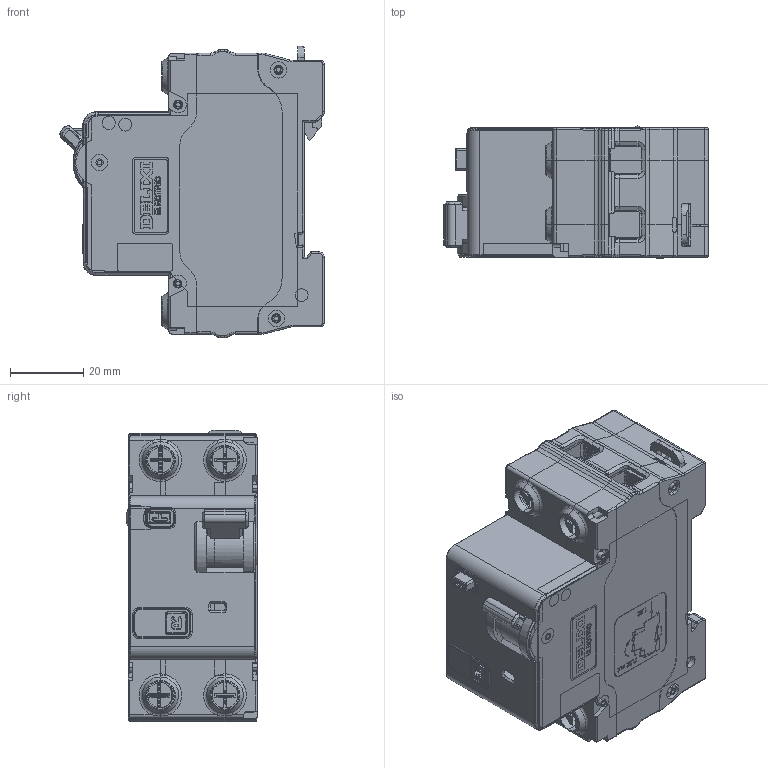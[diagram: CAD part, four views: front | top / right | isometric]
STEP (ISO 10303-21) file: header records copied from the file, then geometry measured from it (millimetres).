
FILE_DESCRIPTION((''),'2;1');
FILE_NAME('2290007500_SW0002','2020-05-29T',('yuan.lu'),(''),'PRO/ENGINEER BY PARAMETRIC TECHNOLOGY CORPORATION, 2015440','PRO/ENGINEER BY PARAMETRIC TECHNOLOGY CORPORATION, 2015440','');
FILE_SCHEMA(('CONFIG_CONTROL_DESIGN'));
Products named in the file (1): 2290007500_SW0002
Bounding box: 72.39 x 36.08 x 79.9 mm (x, y, z)
Surface area: 35447.9 mm2 (no closed solid volume)
Topology: 0 solids, 179 shells, 1261 faces, 6433 edges, 5261 vertices
Faces by surface type: plane 718, cylinder 371, torus 94, cone 60, bspline 15, sphere 3
Entity records: 67966 total; most frequent: CARTESIAN_POINT 19235, DIRECTION 9599, ORIENTED_EDGE 8611, EDGE_CURVE 6433, VERTEX_POINT 5261, VECTOR 4365, LINE 4365, AXIS2_PLACEMENT_3D 2617
